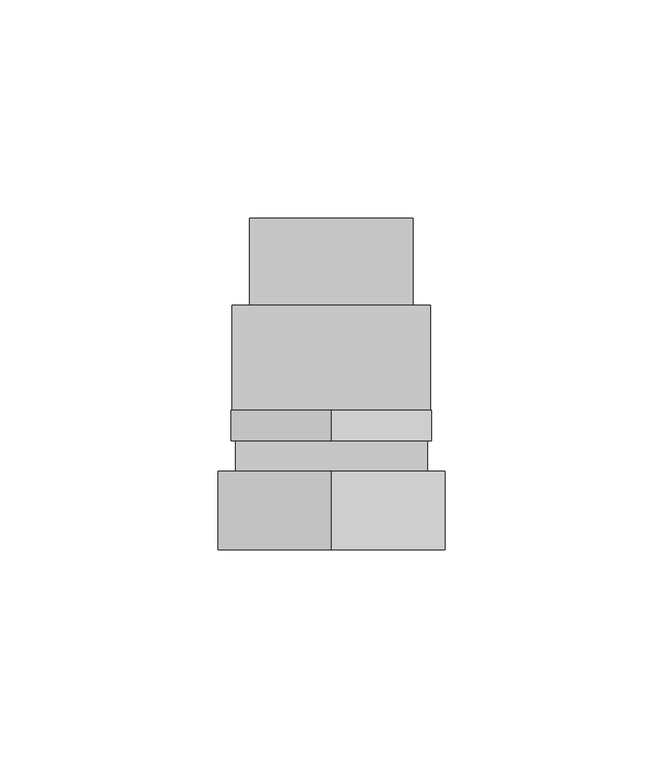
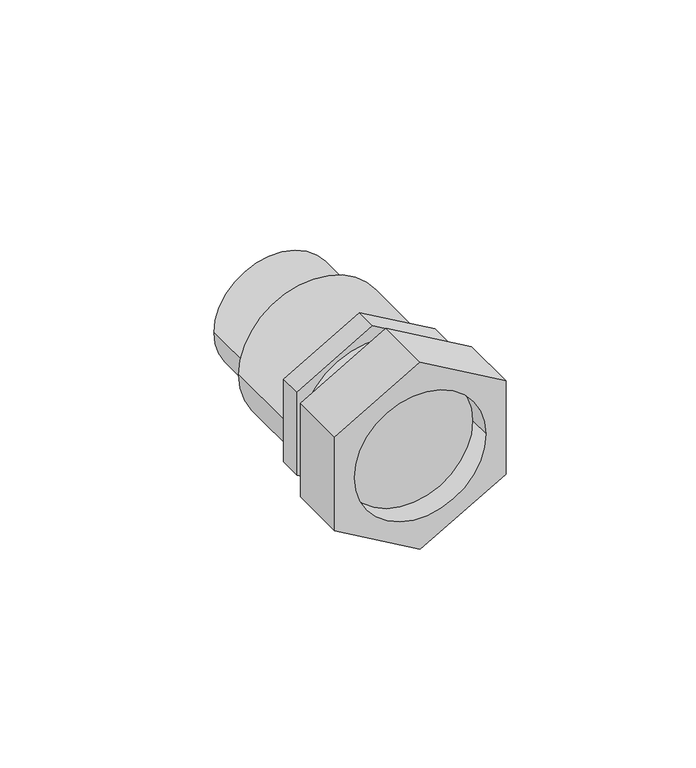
"""IFC4 building model written with IfcOpenShell, lengths in millimetres: pipe fitting geometry, NIRON RED termofusion roscado racor loco : Estándar."""

import ifcopenshell
import ifcopenshell.guid

model = None  # the IFC model being written
_history = None  # IfcOwnerHistory: only IFC2X3 demands one
_inside = {}  # id of a spatial element -> (the spatial element, [elements in it])
_under = {}  # id of a project, library or spatial element -> (it, [spatial elements below it])
_declared = {}  # id of a project -> (the project, [libraries it declares])
_typed = {}  # id of a type object -> (the type object, [elements of that type])
_made_of = {}  # id of a material, layer set ... -> (it, [elements and type objects made of it])


def new_model(schema):
    """Start an empty IFC model of exactly this schema.

    Asked for "IFC4X3", IfcOpenShell would pick the latest addendum, in which some entities
    have other attributes; the version numbers below select the first issue.
    IFC2X3 requires an IfcOwnerHistory on every rooted entity: one is made here for all.
    """
    global model, _history
    if schema == "IFC4X3":
        model = ifcopenshell.file(schema_version=(4, 3, 0, 0))
    else:
        model = ifcopenshell.file(schema=schema)
    _inside.clear()
    _under.clear()
    _declared.clear()
    _typed.clear()
    _made_of.clear()
    _history = None
    if model.schema == "IFC2X3":
        org = make("IfcOrganization", Name="unknown")
        user = make(
            "IfcPersonAndOrganization",
            ThePerson=make("IfcPerson", FamilyName="unknown"),
            TheOrganization=org,
        )
        app = make(
            "IfcApplication",
            ApplicationDeveloper=org,
            Version="unknown",
            ApplicationFullName="unknown",
            ApplicationIdentifier="unknown",
        )
        _history = make(
            "IfcOwnerHistory",
            OwningUser=user,
            OwningApplication=app,
            ChangeAction="ADDED",
            CreationDate=0,
        )
    return model


def make(cls, **values):
    """One entity of the class cls with the attributes given. An attribute that is None is left unset."""
    return model.create_entity(
        cls, **{name: value for name, value in values.items() if value is not None}
    )


def rooted(cls, **values):
    """An entity with a GlobalId (a new one), such as an element, a storey or a relation."""
    return make(cls, GlobalId=ifcopenshell.guid.new(), OwnerHistory=_history, **values)


def si_unit(unit_type, name, prefix=None):
    """IfcSIUnit, for example si_unit("LENGTHUNIT", "METRE", prefix="MILLI")."""
    return make("IfcSIUnit", UnitType=unit_type, Prefix=prefix, Name=name)


def assignment(units):
    """IfcUnitAssignment: the units of a project."""
    return None if units is None else make("IfcUnitAssignment", Units=units)


def point(xyz):
    """IfcCartesianPoint."""
    return None if xyz is None else make("IfcCartesianPoint", Coordinates=xyz)


def direction(xyz):
    """IfcDirection."""
    return None if xyz is None else make("IfcDirection", DirectionRatios=xyz)


def frame(location, z_axis=None, x_axis=None):
    """IfcAxis2Placement3D, a coordinate frame: its origin and axes. An axis left out is left unset."""
    return make(
        "IfcAxis2Placement3D",
        Location=point(location),
        Axis=direction(z_axis),
        RefDirection=direction(x_axis),
    )


def frame_2d(location, x_axis=None):
    """IfcAxis2Placement2D, a coordinate frame in the plane: its origin and x axis."""
    return make(
        "IfcAxis2Placement2D", Location=point(location), RefDirection=direction(x_axis)
    )


def origin():
    """The frame at (0, 0, 0) with its axes left unset."""
    return frame((0.0, 0.0, 0.0))


def origin_2d():
    """The frame at (0, 0) in the plane with its x axis left unset."""
    return frame_2d((0.0, 0.0))


def place(relative_to, where):
    """IfcLocalPlacement: puts the frame where relative to a parent placement (None: the world)."""
    return make(
        "IfcLocalPlacement", PlacementRelTo=relative_to, RelativePlacement=where
    )


def context(
    kind, dimensions, precision=None, world=None, true_north=None, identifier=None
):
    """IfcGeometricRepresentationContext, for example the 3D "Model" context."""
    return make(
        "IfcGeometricRepresentationContext",
        ContextIdentifier=identifier,
        ContextType=kind,
        CoordinateSpaceDimension=dimensions,
        Precision=precision,
        WorldCoordinateSystem=world,
        TrueNorth=true_north,
    )


def project(units=None, contexts=None):
    """IfcProject with its units and contexts."""
    return rooted(
        "IfcProject",
        Name="project",
        RepresentationContexts=contexts,
        UnitsInContext=assignment(units),
    )


def spatial(cls, under=None, at=None, **own):
    """A site, building, storey or space (cls), placed at a placement, below another one or the project."""
    s = rooted(cls, ObjectPlacement=at, **own)
    if under is not None:
        _under.setdefault(under.id(), (under, []))[1].append(s)
    return s


def polyline(points):
    """IfcPolyline through the points."""
    return make("IfcPolyline", Points=[point(p) for p in points])


def circle_curve(where, radius):
    """IfcCircle in the frame where."""
    return make("IfcCircle", Position=where, Radius=radius)


def trimmed(basis, trim1, trim2, sense, master):
    """IfcTrimmedCurve: the piece of a basis curve between two trims."""
    return make(
        "IfcTrimmedCurve",
        BasisCurve=basis,
        Trim1=trim1,
        Trim2=trim2,
        SenseAgreement=sense,
        MasterRepresentation=master,
    )


def segment(curve, same_sense, transition):
    """IfcCompositeCurveSegment."""
    return make(
        "IfcCompositeCurveSegment",
        Transition=transition,
        SameSense=same_sense,
        ParentCurve=curve,
    )


def composite_curve(segments, self_intersect=None):
    """IfcCompositeCurve: segments joined end to end."""
    return make("IfcCompositeCurve", Segments=segments, SelfIntersect=self_intersect)


def outline(outer, holes=None, kind="AREA"):
    """IfcArbitraryClosedProfileDef: a profile drawn as a closed curve; with holes, ...WithVoids."""
    if holes is None:
        return make("IfcArbitraryClosedProfileDef", ProfileType=kind, OuterCurve=outer)
    return make(
        "IfcArbitraryProfileDefWithVoids",
        ProfileType=kind,
        OuterCurve=outer,
        InnerCurves=holes,
    )


def extrude(swept, where, along, depth):
    """IfcExtrudedAreaSolid: the profile swept, set in the frame where, extruded along a direction by depth."""
    return make(
        "IfcExtrudedAreaSolid",
        SweptArea=swept,
        Position=where,
        ExtrudedDirection=direction(along),
        Depth=depth,
    )


def shape(context_of_items, identifier, shape_type, items):
    """IfcShapeRepresentation: the items that make up one representation, for example the "Body"."""
    return make(
        "IfcShapeRepresentation",
        ContextOfItems=context_of_items,
        RepresentationIdentifier=identifier,
        RepresentationType=shape_type,
        Items=items,
    )


def source(mapping_origin, context_of_items, identifier, shape_type, items):
    """IfcRepresentationMap: a shape defined once, which mapped items show again and again."""
    return make(
        "IfcRepresentationMap",
        MappingOrigin=mapping_origin,
        MappedRepresentation=shape(context_of_items, identifier, shape_type, items),
    )


def transform(
    local_origin,
    x_axis=None,
    y_axis=None,
    z_axis=None,
    scale=None,
    scale2=None,
    scale3=None,
    uniform=True,
):
    """IfcCartesianTransformationOperator3D, or its non-uniform kind. x_axis, y_axis, z_axis: its Axis1, 2, 3."""
    if uniform:
        return make(
            "IfcCartesianTransformationOperator3D",
            Axis1=direction(x_axis),
            Axis2=direction(y_axis),
            LocalOrigin=point(local_origin),
            Scale=scale,
            Axis3=direction(z_axis),
        )
    return make(
        "IfcCartesianTransformationOperator3DnonUniform",
        Axis1=direction(x_axis),
        Axis2=direction(y_axis),
        LocalOrigin=point(local_origin),
        Scale=scale,
        Axis3=direction(z_axis),
        Scale2=scale2,
        Scale3=scale3,
    )


def mapped(mapping_source, mapping_target):
    """IfcMappedItem: shows the shape of a source again, moved by a transform."""
    return make(
        "IfcMappedItem", MappingSource=mapping_source, MappingTarget=mapping_target
    )


def made_of(thing, what):
    """Note that an element or type object is made of a material, layer set ...; save() writes the relation."""
    if what is not None:
        _made_of.setdefault(what.id(), (what, []))[1].append(thing)
    return thing


def element(
    cls,
    number,
    at=None,
    inside=None,
    cuts=None,
    type_object=None,
    material=None,
    context=None,
    identifier="Body",
    shape_type=None,
    held_by="IfcProductDefinitionShape",
    body=None,
    shapes=None,
    **own,
):
    """One element of the class cls, such as IfcWall. Its Tag is "e" and its number.

    at: its placement. inside: the storey or other place that contains it. cuts: it is an
    opening in that element (IfcRelVoidsElement). A single representation is given by context,
    identifier, shape_type and body (its items); several are given by shapes. held_by: the class
    of the entity that holds the representations. save() writes the other relations.
    """
    e = rooted(cls, Tag="e%d" % number, ObjectPlacement=at, **own)
    if body is not None:
        shapes = [shape(context, identifier, shape_type, body)]
    if shapes is not None:
        e.Representation = make(held_by, Representations=shapes)
    if inside is not None:
        _inside.setdefault(inside.id(), (inside, []))[1].append(e)
    if cuts is not None:
        rooted(
            "IfcRelVoidsElement", RelatingBuildingElement=cuts, RelatedOpeningElement=e
        )
    if type_object is not None:
        _typed.setdefault(type_object.id(), (type_object, []))[1].append(e)
    return made_of(e, material)


def aggregate(whole, parts):
    """IfcRelAggregates: a whole, such as a stair, and the parts it consists of."""
    return rooted("IfcRelAggregates", RelatingObject=whole, RelatedObjects=parts)


def save(model, path):
    """Write the relations noted so far, then the file.

    IfcRelAggregates (storeys below a building ...), IfcRelContainedInSpatialStructure (elements
    in a storey), IfcRelDefinesByType, IfcRelAssociatesMaterial and IfcRelDeclares: one each for
    every whole, place, type object, material and project.
    """
    for whole, parts in _under.values():
        aggregate(whole, parts)
    for where, things in _inside.values():
        rooted(
            "IfcRelContainedInSpatialStructure",
            RelatedElements=things,
            RelatingStructure=where,
        )
    for kind, things in _typed.values():
        rooted("IfcRelDefinesByType", RelatedObjects=things, RelatingType=kind)
    for what, things in _made_of.values():
        rooted("IfcRelAssociatesMaterial", RelatedObjects=things, RelatingMaterial=what)
    for by, libraries in _declared.values():
        rooted("IfcRelDeclares", RelatingContext=by, RelatedDefinitions=libraries)
    model.write(path)


def plane_surface(at):
    """IfcPlane: the flat surface through the origin of the frame at, square to its z axis."""
    return make("IfcPlane", Position=at)


def cylinder_surface(at, radius):
    """IfcCylindricalSurface: all points at the distance radius from the z axis of the frame at."""
    return make("IfcCylindricalSurface", Position=at, Radius=radius)


def revolved_surface(curve, axis_point, axis_direction):
    """IfcSurfaceOfRevolution: the curve turned about the line through axis_point along axis_direction."""
    return make(
        "IfcSurfaceOfRevolution",
        SweptCurve=make("IfcArbitraryOpenProfileDef", ProfileType="CURVE", Curve=curve),
        AxisPosition=make("IfcAxis1Placement", Location=point(axis_point), Axis=direction(axis_direction)),
    )


def advanced_brep(points, edges, surfaces, faces):
    """IfcAdvancedBrep: a solid bounded by faces that lie on surfaces and meet in shared edges.

    An edge is (start, end): straight between two places in points (the first is 0);
    or (start, end, curve); or (start, end, curve, False) where it runs against its curve.
    A face is (place in surfaces, loops), or (place, loops, False) where it looks against
    its surface's normal. A loop lists edges by number (the first is 1), with a minus sign
    where the edge is run from its end to its start. The first loop is the outer one.
    """
    corners = [point(p) for p in points]
    vertices = [make("IfcVertexPoint", VertexGeometry=c) for c in corners]
    made = []
    for start, end, *more in edges:
        made.append(
            make(
                "IfcEdgeCurve",
                EdgeStart=vertices[start],
                EdgeEnd=vertices[end],
                EdgeGeometry=more[0] if more else make("IfcPolyline", Points=[corners[start], corners[end]]),
                SameSense=more[1] if len(more) > 1 else True,
            )
        )
    hull = []
    for where, loops, *sense in faces:
        bounds = []
        for j, loop in enumerate(loops):
            ring = [make("IfcOrientedEdge", EdgeElement=made[abs(k) - 1], Orientation=k > 0) for k in loop]
            bounds.append(
                make(
                    "IfcFaceOuterBound" if j == 0 else "IfcFaceBound",
                    Bound=make("IfcEdgeLoop", EdgeList=ring),
                    Orientation=True,
                )
            )
        hull.append(make("IfcAdvancedFace", Bounds=bounds, FaceSurface=surfaces[where], SameSense=sense[0] if sense else True))
    return make("IfcAdvancedBrep", Outer=make("IfcClosedShell", CfsFaces=hull))


def pipe_fitting_85ed7105(model_context):
    return source(origin(), model_context, "Body", "SolidModel", [
        advanced_brep(
        [(26.0, 9.0, -15.011107), (26.0, 9.0, 15.011107), (0.0, 9.0, 30.022214), (-26.0, 9.0, 15.011107), (-26.0, 9.0, -15.011107), (0.0, 9.0, -30.022214), (20.0, 9.0, 0.0), (-20.0, 9.0, 0.0), (26.0, 27.0, -15.011107), (0.0, 27.0, -30.022214), (-26.0, 27.0, -15.011107), (-26.0, 27.0, 15.011107), (0.0, 27.0, 30.022214), (26.0, 27.0, 15.011107), (-20.0, 16.0570795, 0.0), (20.0, 16.0570795, 0.0)],
        [
            (0, 1),
            (1, 2),
            (2, 3),
            (3, 4),
            (4, 5),
            (5, 0),
            (6, 7, circle_curve(frame((0.0, 9.0, 0.0), z_axis=(0.0, 1.0, 0.0), x_axis=(1.0, 0.0, 0.0)), 20.0)),
            (7, 6, circle_curve(frame((0.0, 9.0, 0.0), z_axis=(0.0, 1.0, 0.0), x_axis=(1.0, 0.0, 0.0)), 20.0)),
            (8, 9),
            (9, 10),
            (10, 11),
            (11, 12),
            (12, 13),
            (13, 8),
            (0, 8),
            (13, 1),
            (12, 2),
            (11, 3),
            (10, 4),
            (9, 5),
            (14, 15, circle_curve(frame((0.0, 16.0570795, 0.0), z_axis=(0.0, -1.0, 0.0), x_axis=(1.0, 0.0, 0.0)), 20.0)),
            (15, 14, circle_curve(frame((0.0, 16.0570795, 0.0), z_axis=(0.0, -1.0, 0.0), x_axis=(1.0, 0.0, 0.0)), 20.0)),
            (14, 7),
            (6, 15),
        ],
        [
            plane_surface(frame((0.0, 9.0, 0.0), z_axis=(0.0, -1.0, 0.0), x_axis=(0.0, 0.0, 1.0))),
            plane_surface(frame((0.0, 27.0, 0.0), z_axis=(0.0, 1.0, 0.0), x_axis=(0.0, 0.0, 1.0))),
            plane_surface(frame((26.0, 9.0, -15.011107), z_axis=(1.0, 0.0, 0.0), x_axis=(0.0, 1.0, 0.0))),
            plane_surface(frame((26.0, 9.0, 15.011107), z_axis=(0.4999999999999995, 0.0, 0.8660254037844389), x_axis=(0.0, 1.0, 0.0))),
            plane_surface(frame((0.0, 9.0, 30.022214), z_axis=(-0.49999999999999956, 0.0, 0.8660254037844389), x_axis=(0.0, 1.0, 0.0))),
            plane_surface(frame((-26.0, 9.0, 15.011107), z_axis=(-1.0, 0.0, 0.0), x_axis=(0.0, 1.0, 0.0))),
            plane_surface(frame((-26.0, 9.0, -15.011107), z_axis=(-0.4999999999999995, 0.0, -0.866025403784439), x_axis=(0.0, 1.0, 0.0))),
            plane_surface(frame((0.0, 9.0, -30.022214), z_axis=(0.49999999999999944, 0.0, -0.866025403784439), x_axis=(0.0, 1.0, 0.0))),
            plane_surface(frame((20.0, 16.0570795, 0.0), z_axis=(0.0, -1.0, 0.0), x_axis=(0.0, 0.0, -1.0))),
            revolved_surface(polyline([(20.0, 9.0, 0.0), (20.0, 16.0570795, 0.0)]), (0.0, 16.0570795, 0.0), (0.0, -1.0, 0.0)),
        ],
        [
            (0, [[1, 2, 3, 4, 5, 6], [7, 8]]),
            (1, [[9, 10, 11, 12, 13, 14]]),
            (2, [[-1, 15, -14, 16]]),
            (3, [[-2, -16, -13, 17]]),
            (4, [[-3, -17, -12, 18]]),
            (5, [[-4, -18, -11, 19]]),
            (6, [[-5, -19, -10, 20]]),
            (7, [[-6, -20, -9, -15]]),
            (8, [[21, 22]]),
            (9, [[-21, 23, -7, 24]]),
            (9, [[-22, -24, -8, -23]]),
        ],
    ),
        extrude(outline(polyline([(-13.2790562, 23.0), (13.2790562, 23.0), (26.5581124, 0.0), (13.2790562, -23.0), (-13.2790562, -23.0), (-26.5581124, 0.0), (-13.2790562, 23.0)])), frame((0.0, 34.0, 0.0), z_axis=(0.0, 1.0, 0.0), x_axis=(0.0, 0.0, 1.0)), (0.0, 0.0, 1.0), 7.0),
        extrude(outline(composite_curve([segment(trimmed(circle_curve(origin_2d(), 22.0), [point((0.0, -22.0))], [point((0.0, 22.0))], False, "CARTESIAN"), True, "CONTINUOUS"), segment(trimmed(circle_curve(origin_2d(), 22.0), [point((0.0, 22.0))], [point((0.0, -22.0))], False, "CARTESIAN"), True, "CONTINUOUS")], self_intersect=False)), frame((0.0, 27.0, 0.0), z_axis=(0.0, 1.0, 0.0), x_axis=(0.0, 0.0, 1.0)), (0.0, 0.0, 1.0), 7.0),
        advanced_brep(
        [(18.75, 85.0, 0.0), (-18.75, 85.0, 0.0), (0.0, 85.0, 0.0), (22.75, 41.0, 0.0), (-22.75, 41.0, 0.0), (-22.75, 65.0, 0.0), (22.75, 65.0, 0.0), (0.0, 41.0, 0.0), (18.75, 65.0, 0.0), (-18.75, 65.0, 0.0)],
        [
            (0, 1, circle_curve(frame((0.0, 85.0, 0.0), z_axis=(0.0, 1.0, 0.0), x_axis=(-1.0, 0.0, 0.0)), 18.75)),
            (1, 2),
            (2, 0),
            (1, 0, circle_curve(frame((0.0, 85.0, 0.0), z_axis=(0.0, 1.0, 0.0), x_axis=(-1.0, 0.0, 0.0)), 18.75)),
            (3, 4, circle_curve(frame((0.0, 41.0, 0.0), z_axis=(0.0, 1.0, 0.0), x_axis=(-1.0, 0.0, 0.0)), 22.75)),
            (4, 5),
            (5, 6, circle_curve(frame((0.0, 65.0, 0.0), z_axis=(0.0, -1.0, 0.0), x_axis=(-1.0, 0.0, 0.0)), 22.75)),
            (6, 3),
            (4, 3, circle_curve(frame((0.0, 41.0, 0.0), z_axis=(0.0, 1.0, 0.0), x_axis=(-1.0, 0.0, 0.0)), 22.75)),
            (6, 5, circle_curve(frame((0.0, 65.0, 0.0), z_axis=(0.0, -1.0, 0.0), x_axis=(-1.0, 0.0, 0.0)), 22.75)),
            (7, 4),
            (3, 7),
            (8, 9, circle_curve(frame((0.0, 65.0, 0.0), z_axis=(0.0, 1.0, 0.0), x_axis=(-1.0, 0.0, 0.0)), 18.75)),
            (9, 1),
            (0, 8),
            (9, 8, circle_curve(frame((0.0, 65.0, 0.0), z_axis=(0.0, 1.0, 0.0), x_axis=(-1.0, 0.0, 0.0)), 18.75)),
            (5, 9),
            (8, 6),
        ],
        [
            plane_surface(frame((0.0, 85.0, 0.0), z_axis=(0.0, 1.0, 0.0), x_axis=(-1.0, 0.0, 0.0))),
            cylinder_surface(frame((0.0, 95.0, 0.0), z_axis=(0.0, -1.0, 0.0), x_axis=(-1.0, 0.0, 0.0)), 22.75),
            plane_surface(frame((0.0, 41.0, 0.0), z_axis=(0.0, -1.0, 0.0), x_axis=(-1.0, 0.0, 0.0))),
            cylinder_surface(frame((0.0, 95.0, 0.0), z_axis=(0.0, -1.0, 0.0), x_axis=(-1.0, 0.0, 0.0)), 18.75),
            plane_surface(frame((0.0, 65.0, 0.0), z_axis=(0.0, 1.0, 0.0), x_axis=(-1.0, 0.0, 0.0))),
        ],
        [
            (0, [[1, 2, 3]]),
            (0, [[4, -3, -2]]),
            (1, [[5, 6, 7, 8]]),
            (1, [[9, -8, 10, -6]]),
            (2, [[11, -5, 12]]),
            (2, [[-12, -9, -11]]),
            (3, [[13, 14, -1, 15]]),
            (3, [[16, -15, -4, -14]]),
            (4, [[-7, 17, -13, 18]]),
            (4, [[-10, -18, -16, -17]]),
        ],
    ),
    ])


if __name__ == "__main__":
    model = new_model("IFC4")
    model_context = context("Model", 3, world=origin())
    ifc_project = project(units=[si_unit("LENGTHUNIT", "METRE", prefix="MILLI")], contexts=[model_context])
    site = spatial("IfcSite", under=ifc_project)
    building = spatial("IfcBuilding", under=site)
    placement = place(None, origin())
    pipe_fitting_shape = pipe_fitting_85ed7105(model_context)
    element("IfcPipeFitting", 1, ObjectType="NIRON RED termofusion roscado racor loco : Estándar", at=placement, inside=building, context=model_context, shape_type="MappedRepresentation", body=[
        mapped(pipe_fitting_shape, transform((0.0, 0.0, 0.0), x_axis=(1.0, 0.0, 0.0), y_axis=(0.0, 1.0, 0.0), z_axis=(0.0, 0.0, 1.0))),
    ])
    save(model, "model.ifc")
